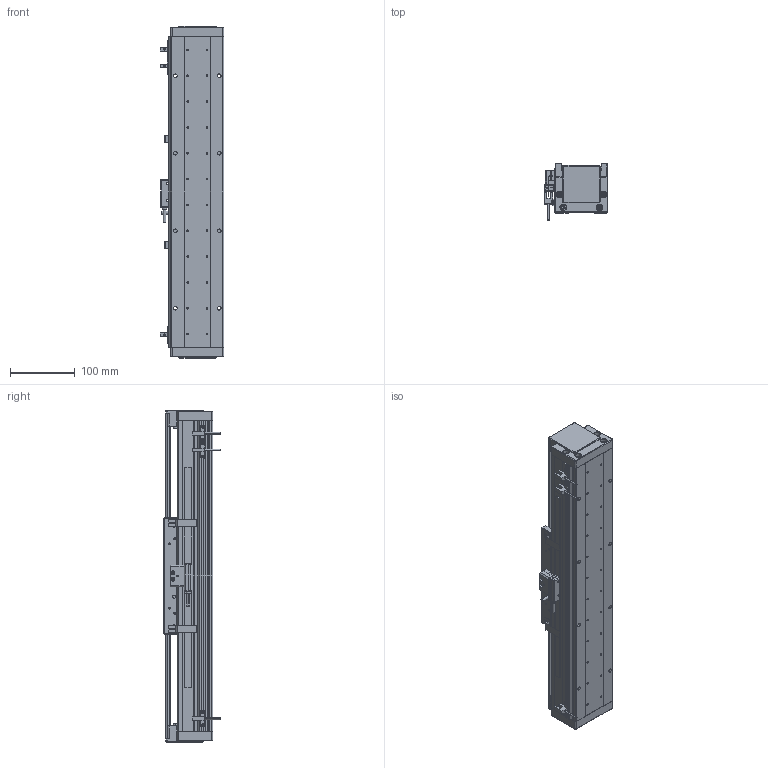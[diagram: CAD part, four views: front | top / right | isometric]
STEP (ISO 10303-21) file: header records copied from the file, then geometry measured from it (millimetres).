
FILE_DESCRIPTION (( 'STEP AP203' ), '1' );
FILE_NAME ('DA-A82-B2-T260-C010-0.2 眻盄萇儂.STEP', '2025-08-13T03:03:15', ( '' ), ( '' ), 'SwSTEP 2.0', 'SolidWorks 2019', '' );
FILE_SCHEMA (( 'CONFIG_CONTROL_DESIGN' ));
Length unit declared in the file: millimetre
Products named in the file (21): 复件 DA95-B2-GT-00 滑块钢轨^AU82-M-00 一体化滑动台板; 葩璃 DA60-DMT-DTJ-00 黍杅芛盓殤^DA-A82-B2-T-C010-0.2; IU-AU82-L 菁釱絳寢; AU82-HT-M-00 賑雄怢啣; AU82-M 幗紩賑怢; 葩璃 XD-U-02  棠掑喜^DA-A82-B2-T-C010-0.2; IU-AU82-L-00 菁釱(L480); 复件 复件 DA82-XJ-00 缓冲橡胶^DA-A82-B2-T-C010-0.2; 葩璃 鞠褒情蹟譫 M3^DA-A82-B2-T-C010-0.2; ｸｴｼ BKM02-W040-C1-TP-DA-3.0 ﾖｱﾏﾟｵ扈巐ｯﾗﾓ^DA-A82-B2-T-C010-0.2; 葩璃 DA82-B2-DP-00 結え^AU82-M 幗紩賑怢; 葩璃 DA82-T-002-00 裔啣^DA-A82-B2-T-C010-0.2; 复件 DA95-GT-T-00 底座钢轨^IU-AU82-L 底座导轨; 葩璃 DMT-010 1米m 0.2M^DA-A82-B2-T-C010-0.2; 葩璃 PM-T45^DA-A82-B2-T-C010-0.2; DA-A82-B2-T260-C010-0.2 眻盄萇儂; AU82-M-00 珨极趙賑雄怢啣; 复件 纯铜油杯 6x6mm^AU82-M 滚珠滑台; DA-A60-GYP-DMT-00 光电感应片^DA-A82-B2-T-C010-0.2(默认); 复件 DA82-DG-H-N-00 端盖^DA-A82-B2-T-C010-0.2(默认_按加工_); 葩璃 BKM01-W040-TRL^DA-A82-B2-T-C010-0.2
Assembly tree (36 placements, depth 4):
  DA-A82-B2-T260-C010-0.2 眻盄萇儂
    IU-AU82-L 菁釱絳寢
      IU-AU82-L-00 菁釱(L480)
      复件 DA95-GT-T-00 底座钢轨^IU-AU82-L 底座导轨  x2
    AU82-M 幗紩賑怢
      AU82-M-00 珨极趙賑雄怢啣
        AU82-HT-M-00 賑雄怢啣
        复件 DA95-B2-GT-00 滑块钢轨^AU82-M-00 一体化滑动台板  x4
      葩璃 DA82-B2-DP-00 結え^AU82-M 幗紩賑怢  x2
      复件 纯铜油杯 6x6mm^AU82-M 滚珠滑台  x2
    葩璃 DA60-DMT-DTJ-00 黍杅芛盓殤^DA-A82-B2-T-C010-0.2
    葩璃 DMT-010 1米m 0.2M^DA-A82-B2-T-C010-0.2
    DA-A60-GYP-DMT-00 光电感应片^DA-A82-B2-T-C010-0.2(默认)  x2
    ｸｴｼ BKM02-W040-C1-TP-DA-3.0 ﾖｱﾏﾟｵ扈巐ｯﾗﾓ^DA-A82-B2-T-C010-0.2
    复件 复件 DA82-XJ-00 缓冲橡胶^DA-A82-B2-T-C010-0.2  x2
    复件 DA82-DG-H-N-00 端盖^DA-A82-B2-T-C010-0.2(默认_按加工_)  x2
    葩璃 DA82-T-002-00 裔啣^DA-A82-B2-T-C010-0.2
    葩璃 BKM01-W040-TRL^DA-A82-B2-T-C010-0.2
    葩璃 PM-T45^DA-A82-B2-T-C010-0.2  x3
    葩璃 XD-U-02  棠掑喜^DA-A82-B2-T-C010-0.2
    葩璃 鞠褒情蹟譫 M3^DA-A82-B2-T-C010-0.2  x6
Bounding box: 98.95 x 87.2 x 514 mm (x, y, z)
Volume: 1929520.2 mm3; surface area: 540715.6 mm2
Topology: 40 solids, 64 shells, 1875 faces, 4810 edges, 2972 vertices
Faces by surface type: cylinder 803, plane 764, cone 252, torus 38, bspline 12, sphere 6
Entity records: 47125 total; most frequent: CARTESIAN_POINT 9849, DIRECTION 7478, ORIENTED_EDGE 6942, EDGE_CURVE 3471, AXIS2_PLACEMENT_3D 2784, VERTEX_POINT 2239, LINE 1910, VECTOR 1910
